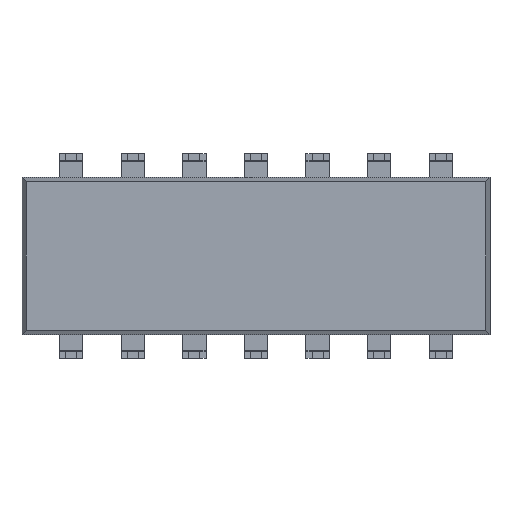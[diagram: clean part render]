
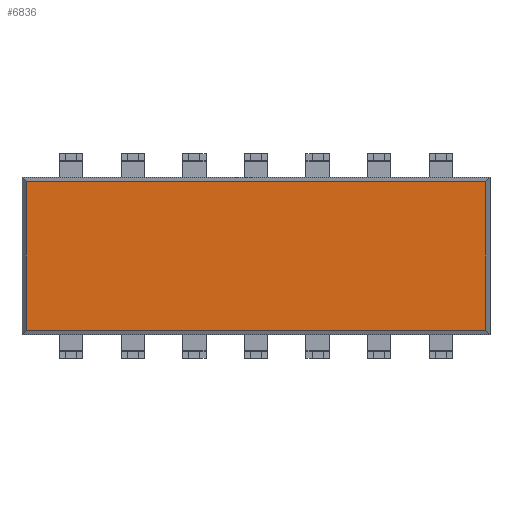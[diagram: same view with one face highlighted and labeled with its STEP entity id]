
A CAD part, front view. The second image highlights one B-rep face of the part: STEP entity #6836.
In plain terms, the highlighted planar face has unit normal (0, -1, 0).
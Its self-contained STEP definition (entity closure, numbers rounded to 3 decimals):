
#6797 = CARTESIAN_POINT ( 'NONE',  ( -9.476, 0.38, 3.062 ) ) ;
#6798 = VERTEX_POINT ( 'NONE', #6797 ) ;
#6799 = CARTESIAN_POINT ( 'NONE',  ( -9.476, 0.38, -3.062 ) ) ;
#6800 = VERTEX_POINT ( 'NONE', #6799 ) ;
#6801 = CARTESIAN_POINT ( 'NONE',  ( -9.476, 0.38, -3.239 ) ) ;
#6802 = DIRECTION ( 'NONE',  ( 0., 0., -1. ) ) ;
#6803 = VECTOR ( 'NONE', #6802, 1000. ) ;
#6804 = LINE ( 'NONE', #6801, #6803 ) ;
#6805 = EDGE_CURVE ( 'NONE', #6798, #6800, #6804, .T. ) ;
#6806 = ORIENTED_EDGE ( 'NONE', *, *, #6805, .T. ) ;
#6807 = CARTESIAN_POINT ( 'NONE',  ( 9.476, 0.38, -3.062 ) ) ;
#6808 = VERTEX_POINT ( 'NONE', #6807 ) ;
#6809 = CARTESIAN_POINT ( 'NONE',  ( 9.652, 0.38, -3.062 ) ) ;
#6810 = DIRECTION ( 'NONE',  ( 1., 0., 0. ) ) ;
#6811 = VECTOR ( 'NONE', #6810, 1000. ) ;
#6812 = LINE ( 'NONE', #6809, #6811 ) ;
#6813 = EDGE_CURVE ( 'NONE', #6800, #6808, #6812, .T. ) ;
#6814 = ORIENTED_EDGE ( 'NONE', *, *, #6813, .T. ) ;
#6815 = CARTESIAN_POINT ( 'NONE',  ( 9.476, 0.38, 3.062 ) ) ;
#6816 = VERTEX_POINT ( 'NONE', #6815 ) ;
#6817 = CARTESIAN_POINT ( 'NONE',  ( 9.476, 0.38, 3.239 ) ) ;
#6818 = DIRECTION ( 'NONE',  ( 0., 0., 1. ) ) ;
#6819 = VECTOR ( 'NONE', #6818, 1000. ) ;
#6820 = LINE ( 'NONE', #6817, #6819 ) ;
#6821 = EDGE_CURVE ( 'NONE', #6808, #6816, #6820, .T. ) ;
#6822 = ORIENTED_EDGE ( 'NONE', *, *, #6821, .T. ) ;
#6823 = CARTESIAN_POINT ( 'NONE',  ( -9.652, 0.38, 3.062 ) ) ;
#6824 = DIRECTION ( 'NONE',  ( -1., 0., 0. ) ) ;
#6825 = VECTOR ( 'NONE', #6824, 1000. ) ;
#6826 = LINE ( 'NONE', #6823, #6825 ) ;
#6827 = EDGE_CURVE ( 'NONE', #6816, #6798, #6826, .T. ) ;
#6828 = ORIENTED_EDGE ( 'NONE', *, *, #6827, .T. ) ;
#6829 = EDGE_LOOP ( 'NONE', ( #6806, #6814, #6822, #6828 ) ) ;
#6830 = FACE_OUTER_BOUND ( 'NONE', #6829, .T. ) ;
#6831 = CARTESIAN_POINT ( 'NONE',  ( 9.652, 0.38, -3.239 ) ) ;
#6832 = DIRECTION ( 'NONE',  ( 0., -1., 0. ) ) ;
#6833 = DIRECTION ( 'NONE',  ( 0., 0., -1. ) ) ;
#6834 = AXIS2_PLACEMENT_3D ( 'NONE', #6831, #6832, #6833 ) ;
#6835 = PLANE ( 'NONE', #6834 ) ;
#6836 = ADVANCED_FACE ( 'NONE', ( #6830 ), #6835, .T. ) ;
